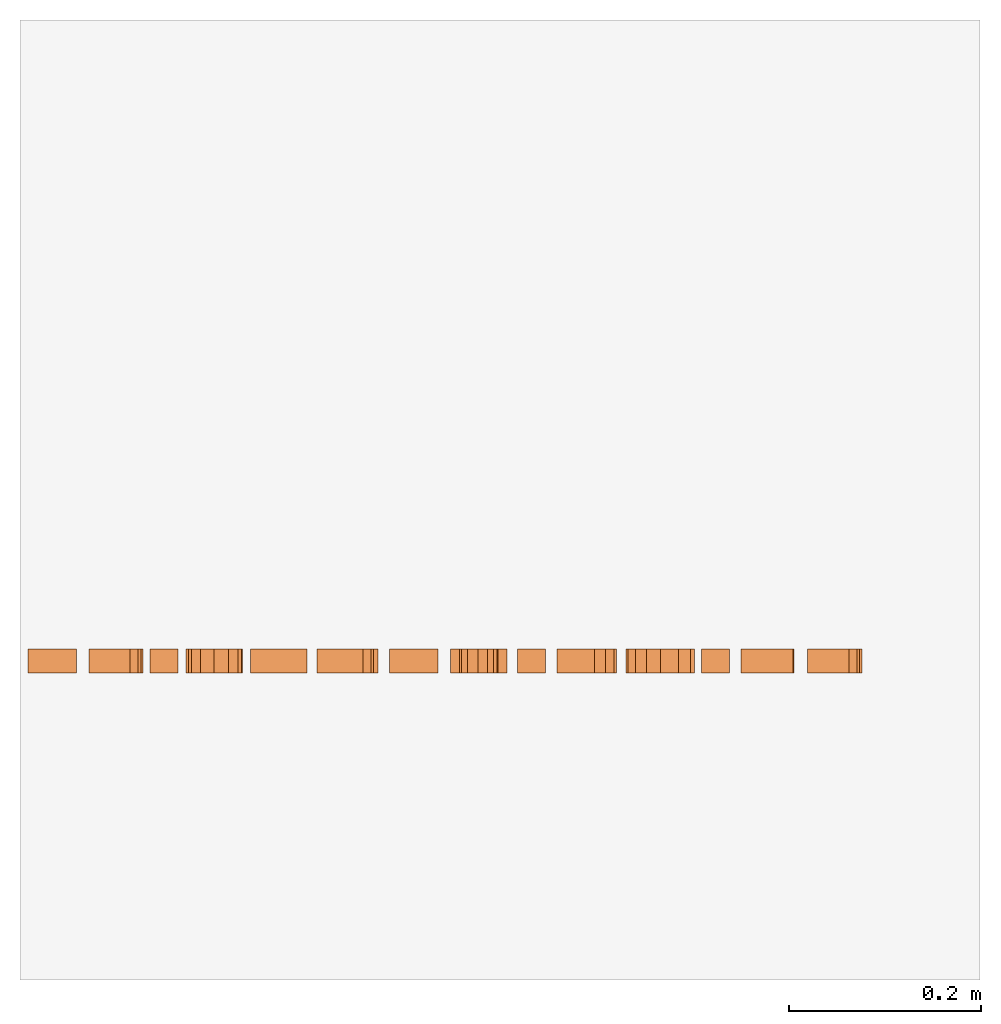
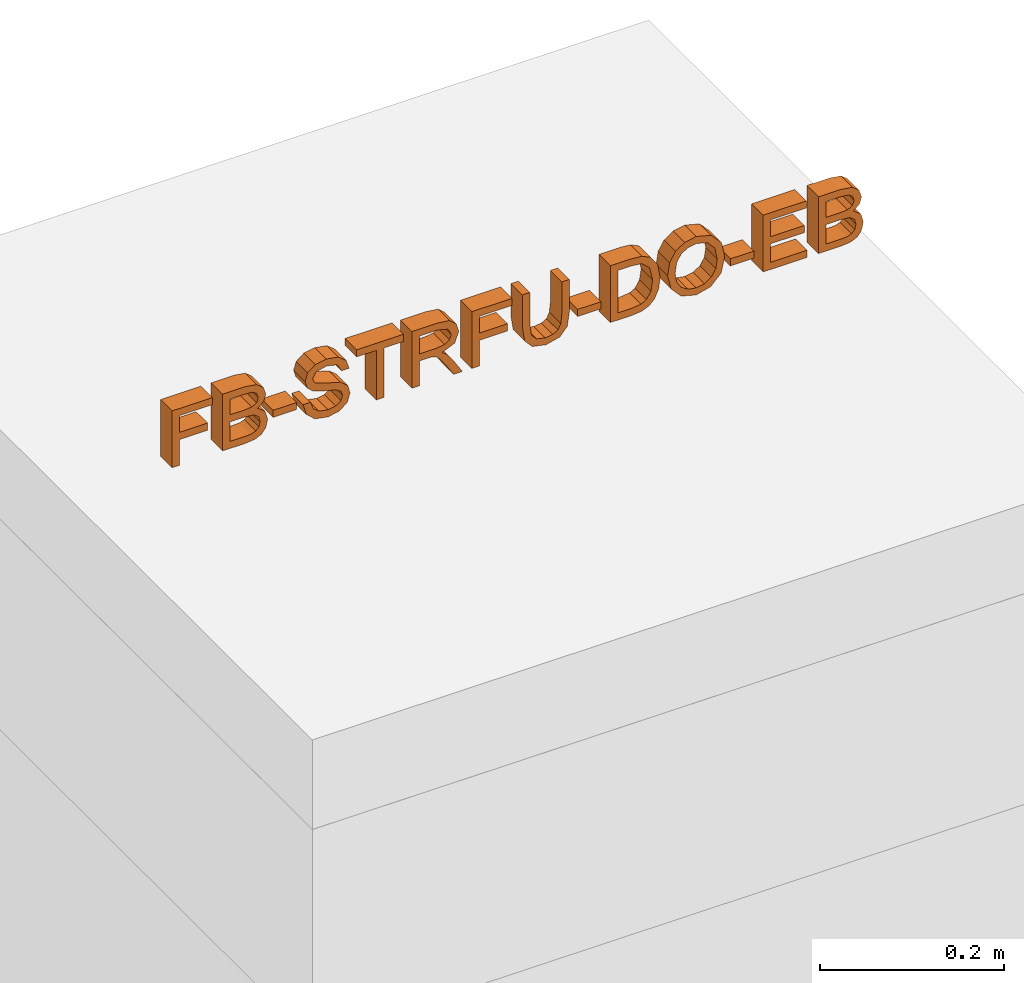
# Not in any storey, part 2 of 2: 1 proxy.
"""IFC4 model written with IfcOpenShell, lengths in metres."""

from ifc_helpers import new_model, entity, si_unit, converted_unit, derived_unit, direction, frame, origin, place, context, subcontext, project, spatial, indexed_curve, outline, extrude, type_object, element, save


model = new_model("IFC4")

# Units and contexts
model_context = context("Model", 3, precision=1e-05, world=origin(), true_north=direction((6.123031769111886e-17, 1.0)))
body_context = subcontext(model_context, "Body", "Model", "MODEL_VIEW")
ifc_project = project(units=[si_unit("LENGTHUNIT", "METRE"), si_unit("AREAUNIT", "SQUARE_METRE"), si_unit("VOLUMEUNIT", "CUBIC_METRE"), converted_unit("PLANEANGLEUNIT", "DEGREE", entity("IfcRatioMeasure", 0.017453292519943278), si_unit("PLANEANGLEUNIT", "RADIAN"), dimensions=[0, 0, 0, 0, 0, 0, 0]), si_unit("MASSUNIT", "GRAM", prefix="KILO"), derived_unit("MASSDENSITYUNIT", [(si_unit("MASSUNIT", "GRAM", prefix="KILO"), 1), (si_unit("LENGTHUNIT", "METRE"), -3)]), derived_unit("IONCONCENTRATIONUNIT", [(si_unit("MASSUNIT", "GRAM", prefix="KILO"), 1), (si_unit("LENGTHUNIT", "METRE"), -3)]), derived_unit("MOMENTOFINERTIAUNIT", [(si_unit("LENGTHUNIT", "METRE"), 4)]), si_unit("TIMEUNIT", "SECOND"), si_unit("FREQUENCYUNIT", "HERTZ"), si_unit("THERMODYNAMICTEMPERATUREUNIT", "DEGREE_CELSIUS"), derived_unit("THERMALTRANSMITTANCEUNIT", [(si_unit("MASSUNIT", "GRAM", prefix="KILO"), 1), (si_unit("THERMODYNAMICTEMPERATUREUNIT", "KELVIN"), -1), (si_unit("TIMEUNIT", "SECOND"), -3)]), derived_unit("THERMALCONDUCTANCEUNIT", [(si_unit("MASSUNIT", "GRAM", prefix="KILO"), 1), (si_unit("THERMODYNAMICTEMPERATUREUNIT", "KELVIN"), -1), (si_unit("TIMEUNIT", "SECOND"), -3), (si_unit("LENGTHUNIT", "METRE"), 1)]), derived_unit("VOLUMETRICFLOWRATEUNIT", [(si_unit("LENGTHUNIT", "METRE"), 3), (si_unit("TIMEUNIT", "SECOND"), -1)]), derived_unit("MASSFLOWRATEUNIT", [(si_unit("MASSUNIT", "GRAM", prefix="KILO"), 1), (si_unit("TIMEUNIT", "SECOND"), -1)]), derived_unit("ROTATIONALFREQUENCYUNIT", [(si_unit("TIMEUNIT", "SECOND"), -1)]), si_unit("ELECTRICCURRENTUNIT", "AMPERE"), si_unit("ELECTRICVOLTAGEUNIT", "VOLT"), si_unit("POWERUNIT", "WATT"), si_unit("FORCEUNIT", "NEWTON", prefix="KILO"), si_unit("ILLUMINANCEUNIT", "LUX"), si_unit("LUMINOUSFLUXUNIT", "LUMEN"), si_unit("LUMINOUSINTENSITYUNIT", "CANDELA"), derived_unit("USERDEFINED", [(si_unit("MASSUNIT", "GRAM", prefix="KILO"), -1), (si_unit("LENGTHUNIT", "METRE"), -2), (si_unit("TIMEUNIT", "SECOND"), 3), (si_unit("LUMINOUSFLUXUNIT", "LUMEN"), 1)]), derived_unit("USERDEFINED", [(si_unit("MASSUNIT", "GRAM", prefix="KILO"), 1), (si_unit("TIMEUNIT", "SECOND"), -3), (si_unit("LENGTHUNIT", "METRE"), 3), (si_unit("ELECTRICCURRENTUNIT", "AMPERE"), -2)]), derived_unit("SOUNDPOWERUNIT", [(si_unit("MASSUNIT", "GRAM", prefix="KILO"), 1), (si_unit("TIMEUNIT", "SECOND"), -3), (si_unit("LENGTHUNIT", "METRE"), 2)]), derived_unit("SOUNDPRESSUREUNIT", [(si_unit("MASSUNIT", "GRAM", prefix="KILO"), 1), (si_unit("LENGTHUNIT", "METRE"), -1), (si_unit("TIMEUNIT", "SECOND"), -2)]), derived_unit("LINEARVELOCITYUNIT", [(si_unit("LENGTHUNIT", "METRE"), 1), (si_unit("TIMEUNIT", "SECOND"), -1)]), si_unit("PRESSUREUNIT", "PASCAL"), derived_unit("USERDEFINED", [(si_unit("MASSUNIT", "GRAM", prefix="KILO"), 1), (si_unit("LENGTHUNIT", "METRE"), -2), (si_unit("TIMEUNIT", "SECOND"), -2)]), derived_unit("LINEARFORCEUNIT", [(si_unit("MASSUNIT", "GRAM", prefix="KILO"), 1), (si_unit("TIMEUNIT", "SECOND"), -2)]), derived_unit("PLANARFORCEUNIT", [(si_unit("MASSUNIT", "GRAM", prefix="KILO"), 1), (si_unit("LENGTHUNIT", "METRE"), -1), (si_unit("TIMEUNIT", "SECOND"), -2)]), derived_unit("SPECIFICHEATCAPACITYUNIT", [(si_unit("THERMODYNAMICTEMPERATUREUNIT", "KELVIN"), -1), (si_unit("LENGTHUNIT", "METRE"), 2), (si_unit("TIMEUNIT", "SECOND"), -2)]), derived_unit("HEATINGVALUEUNIT", [(si_unit("LENGTHUNIT", "METRE"), 2), (si_unit("TIMEUNIT", "SECOND"), -2)]), derived_unit("VAPORPERMEABILITYUNIT", [(si_unit("LENGTHUNIT", "METRE"), -1), (si_unit("TIMEUNIT", "SECOND"), 1)]), derived_unit("DYNAMICVISCOSITYUNIT", [(si_unit("MASSUNIT", "GRAM", prefix="KILO"), 1), (si_unit("TIMEUNIT", "SECOND"), -1), (si_unit("LENGTHUNIT", "METRE"), -1)]), derived_unit("THERMALEXPANSIONCOEFFICIENTUNIT", [(si_unit("THERMODYNAMICTEMPERATUREUNIT", "KELVIN"), -1)]), derived_unit("MODULUSOFELASTICITYUNIT", [(si_unit("MASSUNIT", "GRAM", prefix="KILO"), 1), (si_unit("LENGTHUNIT", "METRE"), -1), (si_unit("TIMEUNIT", "SECOND"), -2)]), derived_unit("ISOTHERMALMOISTURECAPACITYUNIT", [(si_unit("LENGTHUNIT", "METRE"), 3), (si_unit("MASSUNIT", "GRAM", prefix="KILO"), -1)]), derived_unit("MOISTUREDIFFUSIVITYUNIT", [(si_unit("TIMEUNIT", "SECOND"), -1), (si_unit("LENGTHUNIT", "METRE"), 2)])], contexts=[model_context])

# Site
site_placement = place(None, origin())
site = spatial("IfcSite", under=ifc_project, at=site_placement, Name="Default", CompositionType="ELEMENT")

# Proxy
building_element_proxy_type = type_object("IfcBuildingElementProxyType", Name="Modelltext:075mm Arial", PredefinedType="NOTDEFINED")
proxy_placement = place(site_placement, origin())
element("IfcBuildingElementProxy", 1, at=proxy_placement, inside=site, type_object=building_element_proxy_type, Name="Modelltext:075mm Arial", ObjectType="Modelltext:075mm Arial", PredefinedType="NOTDEFINED", context=body_context, shape_type="SweptSolid", body=[
    extrude(outline(indexed_curve([(-0.04379267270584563, -0.022838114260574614), (0.03154955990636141, -0.022838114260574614), (0.03154955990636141, 0.027782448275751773), (0.02213178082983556, 0.027782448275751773), (0.02213178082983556, -0.01342033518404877), (-0.000235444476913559, -0.01342033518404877), (-0.000235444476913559, 0.021896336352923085), (-0.009653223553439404, 0.021896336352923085), (-0.009653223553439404, -0.01342033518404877), (-0.04379267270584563, -0.01342033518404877), (-0.04379267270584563, -0.022838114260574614)], self_intersect=False)), frame((-2.0585609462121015, 42.834392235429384, 2.141699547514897), z_axis=(0.0, 1.0, 0.0), x_axis=(0.0, 0.0, 1.0)), (0.0, 0.0, 1.0), 0.025000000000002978),
    extrude(outline(indexed_curve([(-0.036518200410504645, -0.039605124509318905), (0.03882403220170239, -0.039605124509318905), (0.03882403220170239, -0.010855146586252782), (0.03660754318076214, 0.0032255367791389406), (0.029792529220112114, 0.011539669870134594), (0.02015402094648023, 0.01454710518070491), (0.011352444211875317, 0.012017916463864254), (0.004684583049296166, 0.004375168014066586), (-0.0023419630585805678, 0.013654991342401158), (-0.014059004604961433, 0.01690154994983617), (-0.024184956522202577, 0.014685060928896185), (-0.03139544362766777, 0.009194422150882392), (-0.0352214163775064, 0.0009998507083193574), (-0.036518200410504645, -0.011075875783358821), (-0.036518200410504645, -0.039605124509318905)], self_intersect=False), holes=[indexed_curve([(-0.027100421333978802, -0.030187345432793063), (-0.027100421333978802, -0.010873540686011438), (-0.02673253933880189, -0.003883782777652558), (-0.024681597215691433, 0.0020299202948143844), (-0.02049693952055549, 0.005947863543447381), (-0.014150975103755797, 0.007483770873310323), (-0.006830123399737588, 0.005681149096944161), (-0.002461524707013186, -0.00015897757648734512), (-0.0012015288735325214, -0.011793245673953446), (-0.0012015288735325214, -0.030187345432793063), (-0.027100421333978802, -0.030187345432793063)], self_intersect=False), indexed_curve([(0.008216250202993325, -0.030187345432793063), (0.008216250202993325, -0.012988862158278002), (0.009025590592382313, -0.0029456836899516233), (0.01251127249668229, 0.003096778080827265), (0.01864570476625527, 0.005129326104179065), (0.02478933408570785, 0.003234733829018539), (0.02842216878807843, -0.0021915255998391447), (0.029406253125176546, -0.014294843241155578), (0.029406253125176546, -0.030187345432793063), (0.008216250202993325, -0.030187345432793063)], self_intersect=False)]), frame((-1.9782239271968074, 42.834392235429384, 2.134425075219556), z_axis=(0.0, 1.0, 0.0), x_axis=(0.0, 0.0, 1.0)), (0.0, 0.0, 1.0), 0.025000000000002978),
    extrude(outline(indexed_curve([(-0.01250000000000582, -0.014715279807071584), (0.01249999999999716, -0.014715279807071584), (0.01249999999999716, 0.014715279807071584), (-0.01250000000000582, 0.014715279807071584), (-0.01250000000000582, -0.014715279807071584)], self_intersect=False)), frame((-1.939543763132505, 42.84689223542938, 2.1202741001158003), z_axis=(0.0, 0.0, 1.0), x_axis=(0.0, 1.0, 0.0)), (0.0, 0.0, 1.0), 0.009417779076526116),
    extrude(outline(indexed_curve([(-0.03029298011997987, 0.01105485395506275), (-0.020875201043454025, 0.01105485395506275), (-0.017840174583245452, 0.020481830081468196), (-0.010427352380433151, 0.02644151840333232), (0.0008666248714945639, 0.028713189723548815), (0.01070746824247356, 0.026993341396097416), (0.01706262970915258, 0.0222660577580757), (0.01915036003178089, 0.015947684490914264), (0.017586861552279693, 0.010070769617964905), (0.011185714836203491, 0.005794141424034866), (-0.002527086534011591, 0.002198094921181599), (-0.017288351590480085, -0.002446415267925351), (-0.025298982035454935, -0.009454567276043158), (-0.02793853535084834, -0.018817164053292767), (-0.024673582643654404, -0.02947654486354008), (-0.015136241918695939, -0.03699973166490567), (-0.0011751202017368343, -0.03956570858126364), (0.013724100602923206, -0.03688017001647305), (0.023656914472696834, -0.02898910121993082), (0.027390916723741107, -0.01719848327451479), (0.01797313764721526, -0.01719848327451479), (0.012638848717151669, -0.026873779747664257), (-0.0008072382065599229, -0.030147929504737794), (-0.014290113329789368, -0.02691056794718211), (-0.018520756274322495, -0.019093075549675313), (-0.015522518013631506, -0.012563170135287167), (-0.00014505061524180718, -0.007302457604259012), (0.016520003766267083, -0.0025751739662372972), (0.025634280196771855, 0.0050583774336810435), (0.028568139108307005, 0.0157085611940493), (0.025192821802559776, 0.026974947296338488), (0.015480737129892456, 0.03519710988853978), (0.0012345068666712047, 0.03813096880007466), (-0.015586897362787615, 0.03496718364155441), (-0.026227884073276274, 0.025439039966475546), (-0.03029298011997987, 0.01105485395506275)], self_intersect=False)), frame((-1.8862949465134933, 42.834392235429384, 2.1348606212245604), z_axis=(0.0, 1.0, 0.0), x_axis=(1.0, 0.0, 0.0)), (0.0, 0.0, 1.0), 0.025000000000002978),
    extrude(outline(indexed_curve([(-0.05179778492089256, 0.004708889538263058), (-0.05179778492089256, -0.004708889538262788), (0.014126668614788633, -0.004708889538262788), (0.014126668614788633, -0.02943055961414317), (0.02354444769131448, -0.02943055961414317), (0.02354444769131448, 0.02943055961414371), (0.014126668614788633, 0.02943055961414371), (0.014126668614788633, 0.004708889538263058), (-0.05179778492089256, 0.004708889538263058)], self_intersect=False)), frame((-1.8200556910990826, 42.834392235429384, 2.149704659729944), z_axis=(0.0, -1.0, 0.0), x_axis=(0.0, 0.0, 1.0)), (0.0, 0.0, -1.0), 0.025000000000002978),
    extrude(outline(indexed_curve([(-0.03376914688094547, -0.03536314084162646), (0.041573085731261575, -0.03536314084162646), (0.041573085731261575, -0.0028975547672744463), (0.03954053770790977, 0.01217640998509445), (0.032348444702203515, 0.020416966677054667), (0.020953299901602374, 0.02349797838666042), (0.007378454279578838, 0.018393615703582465), (0.0003703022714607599, 0.00262067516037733), (-0.0036580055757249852, 0.007973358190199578), (-0.01335169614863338, 0.015606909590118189), (-0.03376914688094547, 0.028170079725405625), (-0.03376914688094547, 0.017225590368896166), (-0.01815255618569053, 0.007421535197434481), (-0.007815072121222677, 0.0003398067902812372), (-0.0029314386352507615, -0.004635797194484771), (-0.0011380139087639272, -0.009114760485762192), (-0.0008069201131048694, -0.01457780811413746), (-0.0008069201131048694, -0.02594536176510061), (-0.03376914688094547, -0.02594536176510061), (-0.03376914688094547, -0.03536314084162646)], self_intersect=False), holes=[indexed_curve([(0.008610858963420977, -0.02594536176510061), (0.008610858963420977, -0.004865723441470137), (0.009944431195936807, 0.005885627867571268), (0.014211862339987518, 0.011992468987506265), (0.020603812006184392, 0.014080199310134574), (0.028899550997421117, 0.01009787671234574), (0.032155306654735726, -0.002492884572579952), (0.032155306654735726, -0.02594536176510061), (0.008610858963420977, -0.02594536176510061)], self_intersect=False)]), frame((-1.7446669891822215, 42.834392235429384, 2.131676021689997), z_axis=(0.0, 1.0, 0.0), x_axis=(0.0, 0.0, 1.0)), (0.0, 0.0, 1.0), 0.025000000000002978),
    extrude(outline(indexed_curve([(-0.04379267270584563, -0.02283811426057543), (0.03154955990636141, -0.02283811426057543), (0.03154955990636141, 0.027782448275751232), (0.02213178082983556, 0.027782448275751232), (0.02213178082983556, -0.013420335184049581), (-0.000235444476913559, -0.013420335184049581), (-0.000235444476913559, 0.021896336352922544), (-0.009653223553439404, 0.021896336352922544), (-0.009653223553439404, -0.013420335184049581), (-0.04379267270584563, -0.013420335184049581), (-0.04379267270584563, -0.02283811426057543)], self_intersect=False)), frame((-1.6818497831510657, 42.834392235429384, 2.141699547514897), z_axis=(0.0, 1.0, 0.0), x_axis=(0.0, 0.0, 1.0)), (0.0, 0.0, 1.0), 0.025000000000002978),
    extrude(outline(indexed_curve([(0.0193050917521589, -0.04688825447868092), (0.028722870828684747, -0.04688825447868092), (0.028722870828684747, -0.0034229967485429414), (0.026166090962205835, 0.014594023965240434), (0.016950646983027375, 0.025446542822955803), (-0.0005237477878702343, 0.029631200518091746), (-0.01773142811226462, 0.02598916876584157), (-0.027277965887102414, 0.015440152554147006), (-0.03013824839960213, -0.0034229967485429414), (-0.03013824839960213, -0.04688825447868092), (-0.020720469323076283, -0.04688825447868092), (-0.020720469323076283, -0.0037540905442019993), (-0.01886266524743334, 0.010602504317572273), (-0.012479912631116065, 0.01771182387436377), (-0.0014066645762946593, 0.0202134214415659), (0.008172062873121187, 0.018976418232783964), (0.014541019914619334, 0.015265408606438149), (0.018114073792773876, 0.008036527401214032), (0.0193050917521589, -0.0037540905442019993), (0.0193050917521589, -0.04688825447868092)], self_intersect=False)), frame((-1.6109796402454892, 42.834392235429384, 2.1263608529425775), z_axis=(0.0, 1.0, 0.0), x_axis=(1.0, 0.0, 0.0)), (0.0, 0.0, 1.0), 0.025000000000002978),
    extrude(outline(indexed_curve([(-0.01250000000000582, -0.014715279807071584), (0.01249999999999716, -0.014715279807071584), (0.01249999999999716, 0.014715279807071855), (-0.01250000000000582, 0.014715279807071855), (-0.01250000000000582, -0.014715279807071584)], self_intersect=False)), frame((-1.5569464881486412, 42.84689223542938, 2.1202741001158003), z_axis=(0.0, 0.0, 1.0), x_axis=(0.0, 1.0, 0.0)), (0.0, 0.0, 1.0), 0.009417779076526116),
    extrude(outline(indexed_curve([(-0.03575046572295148, -0.039028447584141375), (0.039591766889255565, -0.039028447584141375), (0.039591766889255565, -0.013037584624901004), (0.03850651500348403, 0.0004085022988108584), (0.03311704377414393, 0.011481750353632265), (0.02024117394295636, 0.020402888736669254), (0.002325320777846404, 0.02336433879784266), (-0.012877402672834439, 0.021359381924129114), (-0.023849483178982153, 0.01620903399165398), (-0.030682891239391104, 0.009329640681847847), (-0.03446287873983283, 0.00032572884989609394), (-0.03575046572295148, -0.011786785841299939), (-0.03575046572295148, -0.039028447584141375)], self_intersect=False), holes=[indexed_curve([(-0.02633268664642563, -0.02961066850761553), (-0.02633268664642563, -0.01294561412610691), (-0.024971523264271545, -0.0008239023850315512), (-0.021127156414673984, 0.0061658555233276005), (-0.011773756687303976, 0.011895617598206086), (0.0024724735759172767, 0.013946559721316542), (0.020314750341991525, 0.009927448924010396), (0.02866567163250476, 0.00015098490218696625), (0.03017398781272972, -0.013203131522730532), (0.03017398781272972, -0.02961066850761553), (-0.02633268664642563, -0.02961066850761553)], self_intersect=False)]), frame((-1.4914305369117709, 42.834392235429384, 2.133657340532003), z_axis=(0.0, 1.0, 0.0), x_axis=(0.0, 0.0, 1.0)), (0.0, 0.0, 1.0), 0.025000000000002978),
    extrude(outline(indexed_curve([(-0.007932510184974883, -0.03322897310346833), (0.00891607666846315, -0.03322897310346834), (0.022502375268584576, -0.027659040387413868), (0.0320601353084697, -0.017468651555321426), (0.03682310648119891, -0.003607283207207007), (0.03470534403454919, 0.015667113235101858), (0.022906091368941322, 0.030317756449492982), (0.0036236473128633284, 0.03765092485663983), (-0.01727065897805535, 0.03614002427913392), (-0.03271287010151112, 0.025259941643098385), (-0.040014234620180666, 0.007916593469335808), (-0.03777202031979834, -0.011581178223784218), (-0.025834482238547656, -0.026178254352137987), (-0.007932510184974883, -0.03322897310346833)], self_intersect=False), holes=[indexed_curve([(-0.0066200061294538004, -0.023902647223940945), (-0.01799380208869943, -0.020284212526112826), (-0.026032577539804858, -0.013359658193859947), (-0.0303875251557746, -0.00411629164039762), (-0.03070983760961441, 0.006458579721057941), (-0.02724447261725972, 0.016616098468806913), (-0.02030217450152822, 0.024170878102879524), (-0.010313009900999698, 0.02833669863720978), (0.0022929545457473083, 0.0283273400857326), (0.017185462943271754, 0.022846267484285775), (0.025968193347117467, 0.012063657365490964), (0.027518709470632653, -0.00214926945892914), (0.024269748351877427, -0.011904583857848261), (0.017768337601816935, -0.019635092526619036), (0.007607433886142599, -0.024061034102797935), (-0.0066200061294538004, -0.023902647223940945)], self_intersect=False)]), frame((-1.4246083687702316, 42.83439223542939, 2.1374768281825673), z_axis=(0.0, 1.0, 0.0), x_axis=(0.14902108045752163, 0.0, 0.9888340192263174)), (0.0, 0.0, 1.0), 0.025000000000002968),
    extrude(outline(indexed_curve([(-0.01250000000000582, -0.014715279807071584), (0.01249999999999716, -0.014715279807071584), (0.01249999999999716, 0.014715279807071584), (-0.01250000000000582, 0.014715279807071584), (-0.01250000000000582, -0.014715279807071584)], self_intersect=False)), frame((-1.3650592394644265, 42.84689223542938, 2.1202741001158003), z_axis=(0.0, 0.0, 1.0), x_axis=(0.0, 1.0, 0.0)), (0.0, 0.0, 1.0), 0.009417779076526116),
    extrude(outline(indexed_curve([(-0.038063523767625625, -0.03001917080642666), (0.03727870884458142, -0.03001917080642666), (0.03727870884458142, 0.02413305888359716), (0.027860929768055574, 0.02413305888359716), (0.027860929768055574, -0.020601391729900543), (0.00549370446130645, -0.020601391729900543), (0.00549370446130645, 0.0217786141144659), (-0.003924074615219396, 0.0217786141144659), (-0.003924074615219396, -0.020601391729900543), (-0.028645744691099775, -0.020601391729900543), (-0.028645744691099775, 0.025310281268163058), (-0.038063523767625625, 0.025310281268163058), (-0.038063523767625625, -0.03001917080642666)], self_intersect=False)), frame((-1.308552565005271, 42.834392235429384, 2.135970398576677), z_axis=(0.0, 1.0, 0.0), x_axis=(0.0, 0.0, 1.0)), (0.0, 0.0, 1.0), 0.025000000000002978),
    extrude(outline(indexed_curve([(-0.036518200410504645, -0.039605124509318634), (0.03882403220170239, -0.039605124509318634), (0.03882403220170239, -0.01085514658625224), (0.03660754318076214, 0.003225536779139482), (0.029792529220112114, 0.011539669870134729), (0.02015402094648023, 0.014547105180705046), (0.011352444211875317, 0.01201791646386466), (0.004684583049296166, 0.004375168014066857), (-0.0023419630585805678, 0.013654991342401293), (-0.014059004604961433, 0.016901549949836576), (-0.024184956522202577, 0.01468506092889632), (-0.03139544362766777, 0.009194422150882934), (-0.0352214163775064, 0.0009998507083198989), (-0.036518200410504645, -0.01107587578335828), (-0.036518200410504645, -0.039605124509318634)], self_intersect=False), holes=[indexed_curve([(0.008216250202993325, -0.03018734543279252), (0.008216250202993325, -0.012988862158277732), (0.009025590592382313, -0.002945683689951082), (0.01251127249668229, 0.0030967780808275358), (0.01864570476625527, 0.005129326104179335), (0.02478933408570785, 0.00323473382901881), (0.02842216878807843, -0.002191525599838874), (0.029406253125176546, -0.014294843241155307), (0.029406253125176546, -0.03018734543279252), (0.008216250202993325, -0.03018734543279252)], self_intersect=False), indexed_curve([(-0.027100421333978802, -0.03018734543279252), (-0.027100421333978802, -0.010873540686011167), (-0.02673253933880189, -0.0038837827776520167), (-0.024681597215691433, 0.002029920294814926), (-0.02049693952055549, 0.005947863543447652), (-0.014150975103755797, 0.007483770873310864), (-0.006830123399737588, 0.005681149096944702), (-0.002461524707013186, -0.00015897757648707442), (-0.0012015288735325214, -0.011793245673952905), (-0.0012015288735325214, -0.03018734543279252), (-0.027100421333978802, -0.03018734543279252)], self_intersect=False)]), frame((-1.2295104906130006, 42.834392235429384, 2.134425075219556), z_axis=(0.0, 1.0, 0.0), x_axis=(0.0, 0.0, 1.0)), (0.0, 0.0, 1.0), 0.025000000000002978),
])

save(model, "model.ifc")
